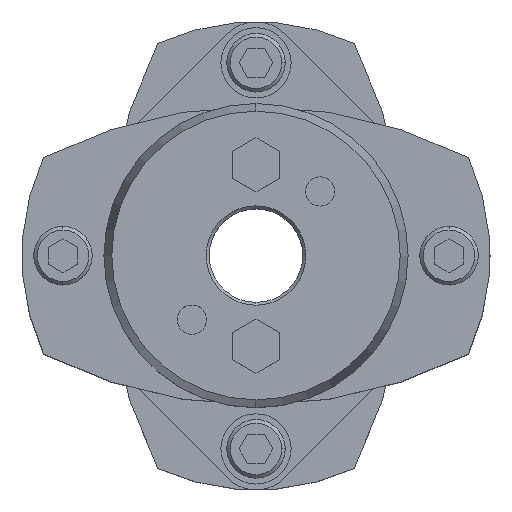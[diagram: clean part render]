
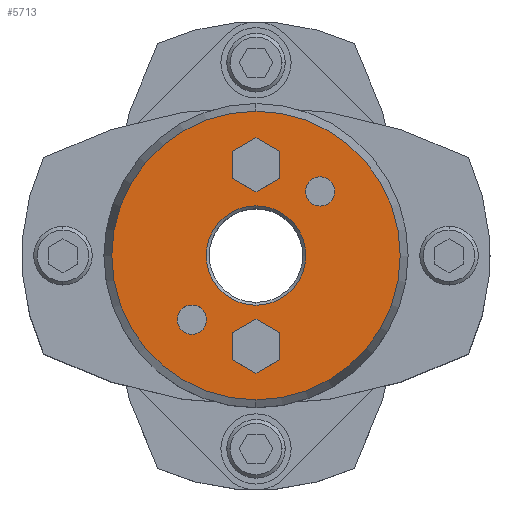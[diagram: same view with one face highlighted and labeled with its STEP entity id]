
A CAD part, top view. The second image highlights one B-rep face of the part: STEP entity #5713.
In plain terms, the highlighted planar face has unit normal (0, 0, 1).
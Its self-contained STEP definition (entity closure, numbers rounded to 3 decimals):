
#1677=CARTESIAN_POINT('',(0.,8.5,45.25));
#1678=VERTEX_POINT('',#1677);
#1694=CARTESIAN_POINT('',(0.,-8.5,45.25));
#1695=VERTEX_POINT('',#1694);
#1702=CARTESIAN_POINT('',(0.,0.,45.25));
#1703=DIRECTION('',(0.0,0.0,1.0));
#1704=DIRECTION('',(0.0,1.0,0.0));
#1705=AXIS2_PLACEMENT_3D('',#1702,#1703,#1704);
#1706=CIRCLE('',#1705,8.5);
#1707=EDGE_CURVE('',#1695,#1678,#1706,.T.);
#1865=CARTESIAN_POINT('',(0.,-24.66,45.25));
#1866=VERTEX_POINT('',#1865);
#1873=CARTESIAN_POINT('',(0.,24.66,45.25));
#1874=VERTEX_POINT('',#1873);
#1875=CARTESIAN_POINT('',(0.,0.,45.25));
#1876=DIRECTION('',(0.0,0.0,-1.0));
#1877=DIRECTION('',(0.0,-1.0,0.0));
#1878=AXIS2_PLACEMENT_3D('',#1875,#1876,#1877);
#1879=CIRCLE('',#1878,24.66);
#1880=EDGE_CURVE('',#1866,#1874,#1879,.T.);
#1975=CARTESIAN_POINT('',(10.96,13.46,45.25));
#1976=VERTEX_POINT('',#1975);
#1992=CARTESIAN_POINT('',(10.96,8.46,45.25));
#1993=VERTEX_POINT('',#1992);
#2000=CARTESIAN_POINT('',(10.96,10.96,45.25));
#2001=DIRECTION('',(0.0,0.0,-1.0));
#2002=DIRECTION('',(0.0,1.0,0.0));
#2003=AXIS2_PLACEMENT_3D('',#2000,#2001,#2002);
#2004=CIRCLE('',#2003,2.5);
#2005=EDGE_CURVE('',#1976,#1993,#2004,.T.);
#2017=CARTESIAN_POINT('',(-10.96,-8.46,45.25));
#2018=VERTEX_POINT('',#2017);
#2034=CARTESIAN_POINT('',(-10.96,-13.46,45.25));
#2035=VERTEX_POINT('',#2034);
#2042=CARTESIAN_POINT('',(-10.96,-10.96,45.25));
#2043=DIRECTION('',(0.0,0.0,-1.0));
#2044=DIRECTION('',(0.0,1.0,0.0));
#2045=AXIS2_PLACEMENT_3D('',#2042,#2043,#2044);
#2046=CIRCLE('',#2045,2.5);
#2047=EDGE_CURVE('',#2018,#2035,#2046,.T.);
#4957=CARTESIAN_POINT('',(0.,-10.881,45.25));
#4958=VERTEX_POINT('',#4957);
#4965=CARTESIAN_POINT('',(-4.,-13.191,45.25));
#4966=VERTEX_POINT('',#4965);
#4967=CARTESIAN_POINT('',(-4.,-13.191,45.25));
#4968=DIRECTION('',(0.866,0.5,0.0));
#4969=VECTOR('',#4968,4.619);
#4970=LINE('',#4967,#4969);
#4971=EDGE_CURVE('',#4966,#4958,#4970,.T.);
#4995=CARTESIAN_POINT('',(4.,-13.191,45.25));
#4996=VERTEX_POINT('',#4995);
#5003=CARTESIAN_POINT('',(0.,-10.881,45.25));
#5004=DIRECTION('',(0.866,-0.5,0.0));
#5005=VECTOR('',#5004,4.619);
#5006=LINE('',#5003,#5005);
#5007=EDGE_CURVE('',#4958,#4996,#5006,.T.);
#5026=CARTESIAN_POINT('',(4.,-17.809,45.25));
#5027=VERTEX_POINT('',#5026);
#5034=CARTESIAN_POINT('',(4.,-13.191,45.25));
#5035=DIRECTION('',(0.0,-1.0,0.0));
#5036=VECTOR('',#5035,4.619);
#5037=LINE('',#5034,#5036);
#5038=EDGE_CURVE('',#4996,#5027,#5037,.T.);
#5057=CARTESIAN_POINT('',(0.,-20.119,45.25));
#5058=VERTEX_POINT('',#5057);
#5065=CARTESIAN_POINT('',(4.,-17.809,45.25));
#5066=DIRECTION('',(-0.866,-0.5,0.0));
#5067=VECTOR('',#5066,4.619);
#5068=LINE('',#5065,#5067);
#5069=EDGE_CURVE('',#5027,#5058,#5068,.T.);
#5088=CARTESIAN_POINT('',(-4.,-17.809,45.25));
#5089=VERTEX_POINT('',#5088);
#5096=CARTESIAN_POINT('',(0.,-20.119,45.25));
#5097=DIRECTION('',(-0.866,0.5,0.0));
#5098=VECTOR('',#5097,4.619);
#5099=LINE('',#5096,#5098);
#5100=EDGE_CURVE('',#5058,#5089,#5099,.T.);
#5118=CARTESIAN_POINT('',(-4.,-17.809,45.25));
#5119=DIRECTION('',(0.0,1.0,0.0));
#5120=VECTOR('',#5119,4.619);
#5121=LINE('',#5118,#5120);
#5122=EDGE_CURVE('',#5089,#4966,#5121,.T.);
#5157=CARTESIAN_POINT('',(0.,20.119,45.25));
#5158=VERTEX_POINT('',#5157);
#5165=CARTESIAN_POINT('',(-4.,17.809,45.25));
#5166=VERTEX_POINT('',#5165);
#5167=CARTESIAN_POINT('',(-4.,17.809,45.25));
#5168=DIRECTION('',(0.866,0.5,0.0));
#5169=VECTOR('',#5168,4.619);
#5170=LINE('',#5167,#5169);
#5171=EDGE_CURVE('',#5166,#5158,#5170,.T.);
#5195=CARTESIAN_POINT('',(4.,17.809,45.25));
#5196=VERTEX_POINT('',#5195);
#5203=CARTESIAN_POINT('',(0.,20.119,45.25));
#5204=DIRECTION('',(0.866,-0.5,0.0));
#5205=VECTOR('',#5204,4.619);
#5206=LINE('',#5203,#5205);
#5207=EDGE_CURVE('',#5158,#5196,#5206,.T.);
#5226=CARTESIAN_POINT('',(4.,13.191,45.25));
#5227=VERTEX_POINT('',#5226);
#5234=CARTESIAN_POINT('',(4.,17.809,45.25));
#5235=DIRECTION('',(0.0,-1.0,0.0));
#5236=VECTOR('',#5235,4.619);
#5237=LINE('',#5234,#5236);
#5238=EDGE_CURVE('',#5196,#5227,#5237,.T.);
#5257=CARTESIAN_POINT('',(0.,10.881,45.25));
#5258=VERTEX_POINT('',#5257);
#5265=CARTESIAN_POINT('',(4.,13.191,45.25));
#5266=DIRECTION('',(-0.866,-0.5,0.0));
#5267=VECTOR('',#5266,4.619);
#5268=LINE('',#5265,#5267);
#5269=EDGE_CURVE('',#5227,#5258,#5268,.T.);
#5288=CARTESIAN_POINT('',(-4.,13.191,45.25));
#5289=VERTEX_POINT('',#5288);
#5296=CARTESIAN_POINT('',(0.,10.881,45.25));
#5297=DIRECTION('',(-0.866,0.5,0.0));
#5298=VECTOR('',#5297,4.619);
#5299=LINE('',#5296,#5298);
#5300=EDGE_CURVE('',#5258,#5289,#5299,.T.);
#5318=CARTESIAN_POINT('',(-4.,13.191,45.25));
#5319=DIRECTION('',(0.0,1.0,0.0));
#5320=VECTOR('',#5319,4.619);
#5321=LINE('',#5318,#5320);
#5322=EDGE_CURVE('',#5289,#5166,#5321,.T.);
#5348=CARTESIAN_POINT('',(-10.96,-10.96,45.25));
#5349=DIRECTION('',(0.0,0.0,-1.0));
#5350=DIRECTION('',(0.0,1.0,0.0));
#5351=AXIS2_PLACEMENT_3D('',#5348,#5349,#5350);
#5352=CIRCLE('',#5351,2.5);
#5353=EDGE_CURVE('',#2035,#2018,#5352,.T.);
#5382=CARTESIAN_POINT('',(10.96,10.96,45.25));
#5383=DIRECTION('',(0.0,0.0,-1.0));
#5384=DIRECTION('',(0.0,1.0,0.0));
#5385=AXIS2_PLACEMENT_3D('',#5382,#5383,#5384);
#5386=CIRCLE('',#5385,2.5);
#5387=EDGE_CURVE('',#1993,#1976,#5386,.T.);
#5660=CARTESIAN_POINT('',(0.,0.,45.25));
#5661=DIRECTION('',(0.0,0.0,-1.0));
#5662=DIRECTION('',(0.0,-1.0,0.0));
#5663=AXIS2_PLACEMENT_3D('',#5660,#5661,#5662);
#5664=CIRCLE('',#5663,24.66);
#5665=EDGE_CURVE('',#1874,#1866,#5664,.T.);
#5670=CARTESIAN_POINT('',(0.,2.364,45.25));
#5671=DIRECTION('',(0.0,0.0,1.0));
#5672=DIRECTION('',(0.0,1.0,0.0));
#5673=AXIS2_PLACEMENT_3D('',#5670,#5671,#5672);
#5674=PLANE('',#5673);
#5675=ORIENTED_EDGE('',*,*,#5665,.F.);
#5676=ORIENTED_EDGE('',*,*,#1880,.F.);
#5677=EDGE_LOOP('',(#5675,#5676));
#5678=FACE_OUTER_BOUND('',#5677,.T.);
#5679=ORIENTED_EDGE('',*,*,#4971,.T.);
#5680=ORIENTED_EDGE('',*,*,#5007,.T.);
#5681=ORIENTED_EDGE('',*,*,#5038,.T.);
#5682=ORIENTED_EDGE('',*,*,#5069,.T.);
#5683=ORIENTED_EDGE('',*,*,#5100,.T.);
#5684=ORIENTED_EDGE('',*,*,#5122,.T.);
#5685=EDGE_LOOP('',(#5679,#5680,#5681,#5682,#5683,#5684));
#5686=FACE_BOUND('',#5685,.T.);
#5687=ORIENTED_EDGE('',*,*,#5171,.T.);
#5688=ORIENTED_EDGE('',*,*,#5207,.T.);
#5689=ORIENTED_EDGE('',*,*,#5238,.T.);
#5690=ORIENTED_EDGE('',*,*,#5269,.T.);
#5691=ORIENTED_EDGE('',*,*,#5300,.T.);
#5692=ORIENTED_EDGE('',*,*,#5322,.T.);
#5693=EDGE_LOOP('',(#5687,#5688,#5689,#5690,#5691,#5692));
#5694=FACE_BOUND('',#5693,.T.);
#5695=ORIENTED_EDGE('',*,*,#2047,.T.);
#5696=ORIENTED_EDGE('',*,*,#5353,.T.);
#5697=EDGE_LOOP('',(#5695,#5696));
#5698=FACE_BOUND('',#5697,.T.);
#5699=ORIENTED_EDGE('',*,*,#2005,.T.);
#5700=ORIENTED_EDGE('',*,*,#5387,.T.);
#5701=EDGE_LOOP('',(#5699,#5700));
#5702=FACE_BOUND('',#5701,.T.);
#5703=ORIENTED_EDGE('',*,*,#1707,.F.);
#5704=CARTESIAN_POINT('',(0.,0.,45.25));
#5705=DIRECTION('',(0.0,0.0,1.0));
#5706=DIRECTION('',(0.0,1.0,0.0));
#5707=AXIS2_PLACEMENT_3D('',#5704,#5705,#5706);
#5708=CIRCLE('',#5707,8.5);
#5709=EDGE_CURVE('',#1678,#1695,#5708,.T.);
#5710=ORIENTED_EDGE('',*,*,#5709,.F.);
#5711=EDGE_LOOP('',(#5703,#5710));
#5712=FACE_BOUND('',#5711,.T.);
#5713=ADVANCED_FACE('',(#5678,#5686,#5694,#5698,#5702,#5712),#5674,.T.);
